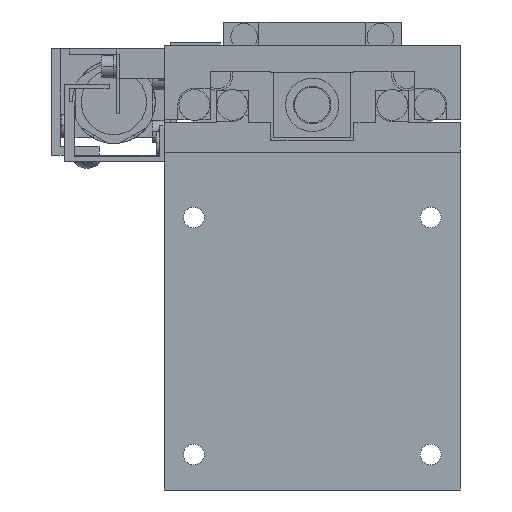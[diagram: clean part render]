
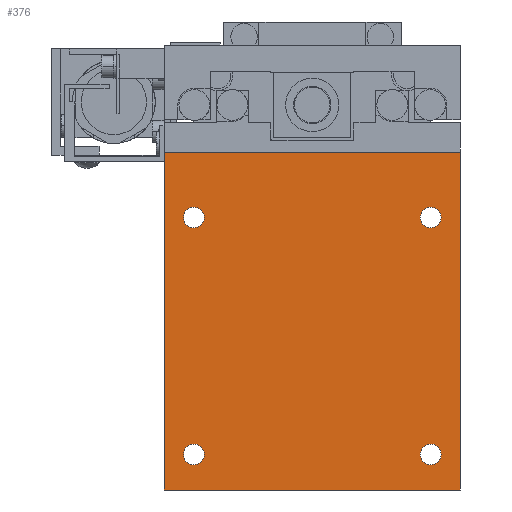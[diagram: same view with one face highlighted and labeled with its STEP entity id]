
A CAD part, front view. The second image highlights one B-rep face of the part: STEP entity #376.
In plain terms, the highlighted planar face has unit normal (0, -1, 0).
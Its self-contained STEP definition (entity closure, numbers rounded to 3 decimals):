
#376=ADVANCED_FACE('',(#1211,#1212,#1213,#1214,#1215),#1216,.F.);
#1211=FACE_BOUND('',#2984,.T.);
#1212=FACE_BOUND('',#2985,.T.);
#1213=FACE_BOUND('',#2986,.T.);
#1214=FACE_BOUND('',#2987,.T.);
#1215=FACE_OUTER_BOUND('',#2988,.T.);
#1216=PLANE('',#2989);
#2984=EDGE_LOOP('',(#4822,#4823));
#2985=EDGE_LOOP('',(#4824,#4825));
#2986=EDGE_LOOP('',(#4826,#4827));
#2987=EDGE_LOOP('',(#4828,#4829));
#2988=EDGE_LOOP('',(#4830,#4831,#4832,#4833));
#2989=AXIS2_PLACEMENT_3D('',#4834,#4835,#4836);
#4822=ORIENTED_EDGE('',*,*,#11458,.F.);
#4823=ORIENTED_EDGE('',*,*,#11409,.F.);
#4824=ORIENTED_EDGE('',*,*,#11459,.F.);
#4825=ORIENTED_EDGE('',*,*,#11441,.F.);
#4826=ORIENTED_EDGE('',*,*,#11460,.F.);
#4827=ORIENTED_EDGE('',*,*,#11449,.F.);
#4828=ORIENTED_EDGE('',*,*,#11461,.F.);
#4829=ORIENTED_EDGE('',*,*,#11445,.F.);
#4830=ORIENTED_EDGE('',*,*,#11462,.T.);
#4831=ORIENTED_EDGE('',*,*,#11463,.F.);
#4832=ORIENTED_EDGE('',*,*,#11464,.F.);
#4833=ORIENTED_EDGE('',*,*,#11455,.T.);
#4834=CARTESIAN_POINT('',(-25.0,0.0,-26.5));
#4835=DIRECTION('',(0.0,1.0,0.0));
#4836=DIRECTION('',(-1.0,0.0,0.0));
#11409=EDGE_CURVE('',#13517,#13513,#13519,.T.);
#11441=EDGE_CURVE('',#13581,#13577,#13583,.T.);
#11445=EDGE_CURVE('',#13589,#13585,#13591,.T.);
#11449=EDGE_CURVE('',#13597,#13593,#13599,.T.);
#11455=EDGE_CURVE('',#13611,#13609,#13612,.T.);
#11458=EDGE_CURVE('',#13513,#13517,#13616,.T.);
#11459=EDGE_CURVE('',#13577,#13581,#13617,.T.);
#11460=EDGE_CURVE('',#13593,#13597,#13618,.T.);
#11461=EDGE_CURVE('',#13585,#13589,#13619,.T.);
#11462=EDGE_CURVE('',#13609,#13620,#13621,.T.);
#11463=EDGE_CURVE('',#13622,#13620,#13623,.T.);
#11464=EDGE_CURVE('',#13611,#13622,#13624,.T.);
#13513=VERTEX_POINT('',#16975);
#13517=VERTEX_POINT('',#16980);
#13519=CIRCLE('',#16983,1.75);
#13577=VERTEX_POINT('',#17055);
#13581=VERTEX_POINT('',#17060);
#13583=CIRCLE('',#17063,1.75);
#13585=VERTEX_POINT('',#17065);
#13589=VERTEX_POINT('',#17070);
#13591=CIRCLE('',#17073,1.75);
#13593=VERTEX_POINT('',#17075);
#13597=VERTEX_POINT('',#17080);
#13599=CIRCLE('',#17083,1.75);
#13609=VERTEX_POINT('',#17095);
#13611=VERTEX_POINT('',#17098);
#13612=LINE('',#17099,#17100);
#13616=CIRCLE('',#17106,1.75);
#13617=CIRCLE('',#17107,1.75);
#13618=CIRCLE('',#17108,1.75);
#13619=CIRCLE('',#17109,1.75);
#13620=VERTEX_POINT('',#17110);
#13621=LINE('',#17111,#17112);
#13622=VERTEX_POINT('',#17113);
#13623=LINE('',#17114,#17115);
#13624=LINE('',#17116,#17117);
#16975=CARTESIAN_POINT('',(20.0,0.0,21.25));
#16980=CARTESIAN_POINT('',(20.0,0.0,17.75));
#16983=AXIS2_PLACEMENT_3D('',#22081,#22082,#22083);
#17055=CARTESIAN_POINT('',(-20.0,0.0,-18.75));
#17060=CARTESIAN_POINT('',(-20.0,0.0,-22.25));
#17063=AXIS2_PLACEMENT_3D('',#22145,#22146,#22147);
#17065=CARTESIAN_POINT('',(-20.0,0.0,21.25));
#17070=CARTESIAN_POINT('',(-20.0,0.0,17.75));
#17073=AXIS2_PLACEMENT_3D('',#22153,#22154,#22155);
#17075=CARTESIAN_POINT('',(20.0,0.0,-18.75));
#17080=CARTESIAN_POINT('',(20.0,0.0,-22.25));
#17083=AXIS2_PLACEMENT_3D('',#22161,#22162,#22163);
#17095=CARTESIAN_POINT('',(25.0,0.0,-26.5));
#17098=CARTESIAN_POINT('',(-25.0,0.0,-26.5));
#17099=CARTESIAN_POINT('',(-25.0,0.0,-26.5));
#17100=VECTOR('',#22173,1000.0);
#17106=AXIS2_PLACEMENT_3D('',#22176,#22177,#22178);
#17107=AXIS2_PLACEMENT_3D('',#22179,#22180,#22181);
#17108=AXIS2_PLACEMENT_3D('',#22182,#22183,#22184);
#17109=AXIS2_PLACEMENT_3D('',#22185,#22186,#22187);
#17110=CARTESIAN_POINT('',(25.0,0.0,30.5));
#17111=CARTESIAN_POINT('',(25.0,0.0,-26.5));
#17112=VECTOR('',#22188,1000.0);
#17113=CARTESIAN_POINT('',(-25.0,0.0,30.5));
#17114=CARTESIAN_POINT('',(-25.0,0.0,30.5));
#17115=VECTOR('',#22189,1000.0);
#17116=CARTESIAN_POINT('',(-25.0,0.0,-26.5));
#17117=VECTOR('',#22190,1000.0);
#22081=CARTESIAN_POINT('',(20.0,0.0,19.5));
#22082=DIRECTION('',(0.0,-1.0,0.0));
#22083=DIRECTION('',(0.0,0.0,1.0));
#22145=CARTESIAN_POINT('',(-20.0,0.0,-20.5));
#22146=DIRECTION('',(0.0,-1.0,0.0));
#22147=DIRECTION('',(0.0,0.0,1.0));
#22153=CARTESIAN_POINT('',(-20.0,0.0,19.5));
#22154=DIRECTION('',(0.0,-1.0,0.0));
#22155=DIRECTION('',(0.0,0.0,1.0));
#22161=CARTESIAN_POINT('',(20.0,0.0,-20.5));
#22162=DIRECTION('',(0.0,-1.0,0.0));
#22163=DIRECTION('',(0.0,0.0,1.0));
#22173=DIRECTION('',(1.0,0.0,0.0));
#22176=CARTESIAN_POINT('',(20.0,0.0,19.5));
#22177=DIRECTION('',(0.0,-1.0,0.0));
#22178=DIRECTION('',(0.0,0.0,1.0));
#22179=CARTESIAN_POINT('',(-20.0,0.0,-20.5));
#22180=DIRECTION('',(0.0,-1.0,0.0));
#22181=DIRECTION('',(0.0,0.0,1.0));
#22182=CARTESIAN_POINT('',(20.0,0.0,-20.5));
#22183=DIRECTION('',(0.0,-1.0,0.0));
#22184=DIRECTION('',(0.0,0.0,1.0));
#22185=CARTESIAN_POINT('',(-20.0,0.0,19.5));
#22186=DIRECTION('',(0.0,-1.0,0.0));
#22187=DIRECTION('',(0.0,0.0,1.0));
#22188=DIRECTION('',(0.0,0.0,1.0));
#22189=DIRECTION('',(1.0,0.0,0.0));
#22190=DIRECTION('',(0.0,0.0,1.0));
